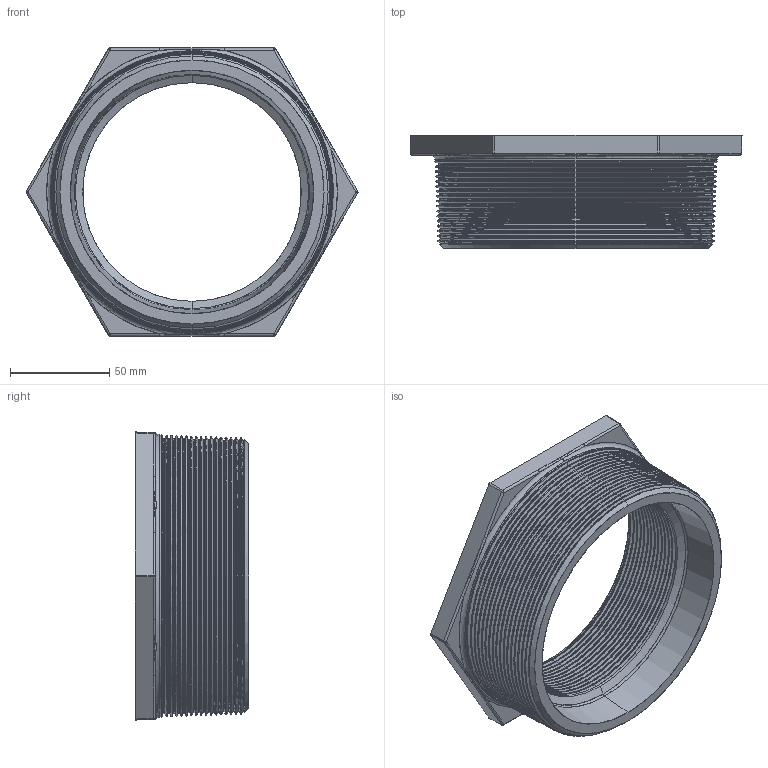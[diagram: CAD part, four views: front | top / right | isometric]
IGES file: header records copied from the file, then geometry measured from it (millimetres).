
Start section: SolidWorks IGES file using analytic representation for surfaces
Global section: file name: C:\Users\Joel Rosa\Desktop\Tubulação\12-01-OK\12-01-066.IGS; native system: SolidWorks 2011; preprocessor: SolidWorks 2011; author: Joel Rosa; date: 121203.200852; units: millimetre
Bounding box: 167.12 x 57 x 145 mm (x, y, z)
Surface area: 81862.2 mm2 (no closed solid volume)
Topology: 0 solids, 0 shells, 559 faces, 3869 edges, 3869 vertices
Faces by surface type: bspline 393, revolution 166
